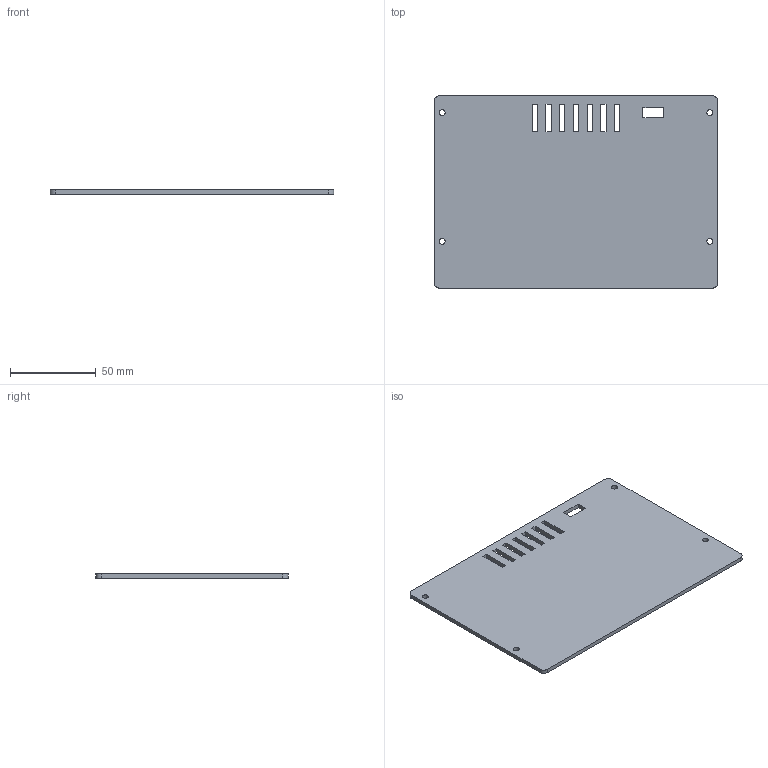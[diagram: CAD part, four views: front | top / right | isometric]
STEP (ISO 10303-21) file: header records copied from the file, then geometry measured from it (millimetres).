
FILE_DESCRIPTION(('Open CASCADE Model'),'2;1');
FILE_NAME('A03_rear_panel','2026-11-05T16:12:41',('Author'),( 'Open CASCADE'),'Open CASCADE STEP processor 7.9','build123d', 'Unknown');
FILE_SCHEMA(('AUTOMOTIVE_DESIGN { 1 0 10303 214 1 1 1 1 }'));
Length unit declared in the file: millimetre
Products named in the file (2): A03_rear_panel
Assembly tree (1 placements, depth 2):
  A03_rear_panel
    A03_rear_panel
Bounding box: 165.2 x 112 x 2.4 mm (x, y, z)
Volume: 43320.9 mm3; surface area: 38246.3 mm2
Topology: 1 solids, 1 shells, 46 faces, 132 edges, 88 vertices
Faces by surface type: plane 38, cylinder 8
Full cylindrical faces by diameter (mm): 3.4 x4
Entity records: 3332 total; most frequent: CARTESIAN_POINT 580, DIRECTION 500, LINE 364, VECTOR 364, ORIENTED_EDGE 264, PCURVE 264, DEFINITIONAL_REPRESENTATION 264, EDGE_CURVE 132
